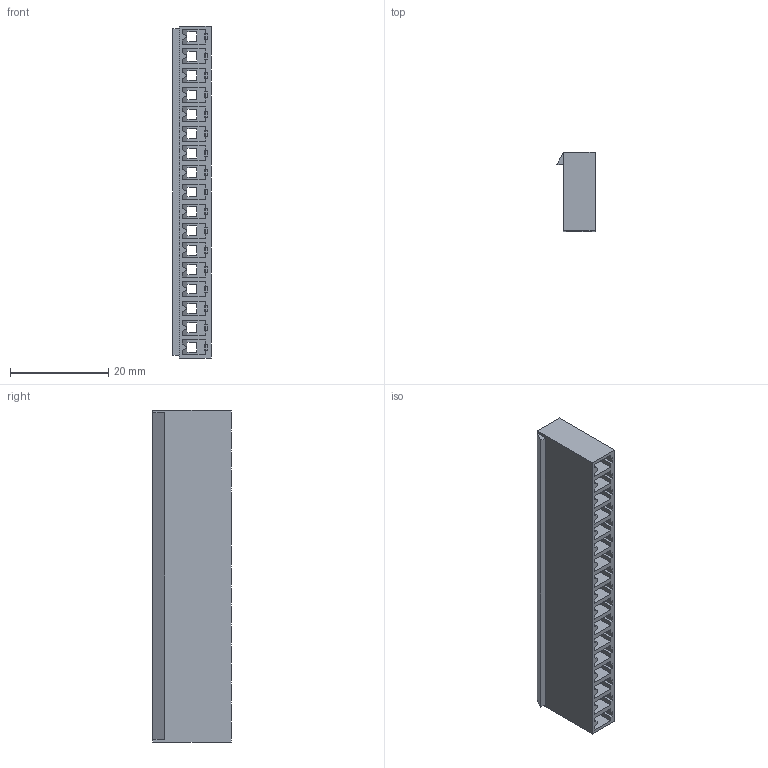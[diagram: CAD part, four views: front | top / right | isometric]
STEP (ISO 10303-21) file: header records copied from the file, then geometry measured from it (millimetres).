
FILE_DESCRIPTION (( 'STEP AP203' ), '1' );
FILE_NAME ('HC-3.96-17Y-05.STEP', '2024-08-08T01:18:29', ( '' ), ( '' ), 'SwSTEP 2.0', 'SolidWorks 2022', '' );
FILE_SCHEMA (( 'CONFIG_CONTROL_DESIGN' ));
Length unit declared in the file: millimetre
Products named in the file (1): HC-3.96-17Y-05
Bounding box: 7.8 x 16 x 67.72 mm (x, y, z)
Volume: 3752.6 mm3; surface area: 6970.9 mm2
Topology: 1 solids, 1 shells, 452 faces, 1314 edges, 847 vertices
Faces by surface type: plane 435, cylinder 17
Entity records: 14712 total; most frequent: CARTESIAN_POINT 2716, ORIENTED_EDGE 2628, DIRECTION 2203, EDGE_CURVE 1314, VECTOR 1263, LINE 1263, VERTEX_POINT 847, EDGE_LOOP 503
